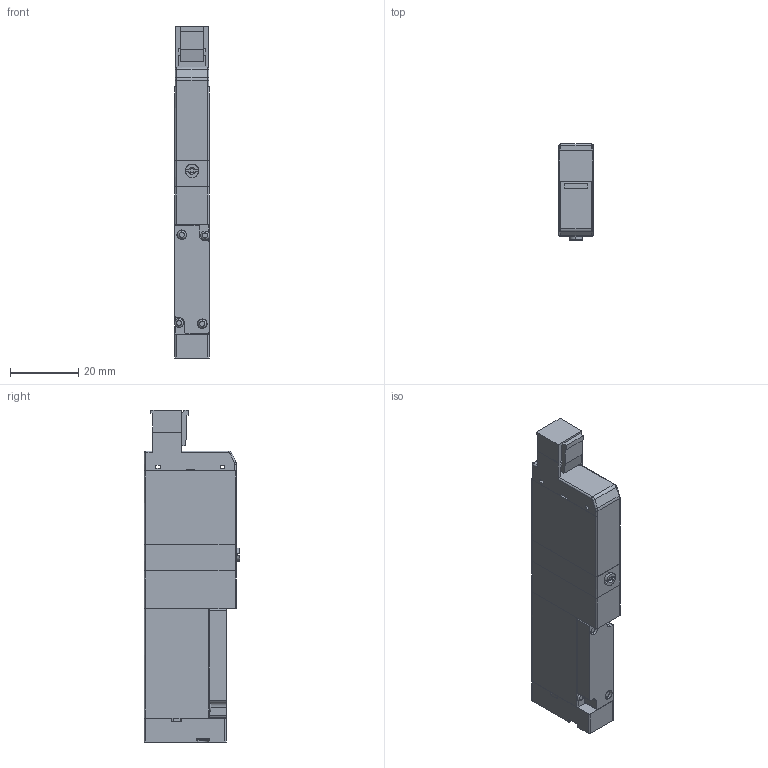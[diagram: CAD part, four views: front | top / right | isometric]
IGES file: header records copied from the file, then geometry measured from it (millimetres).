
Start section: ------------------------------------------------------------------------
Global section: file name: D:\ICADMX\tmp\trans3d_spg\CVICAD02.18204.F10T0-A1-PS_8379.igs; native system: spGate; preprocessor: ver12.6.6; author: Unknown; organization: Unknown; date: 200901.142327; units: millimetre
Bounding box: 10.2 x 28 x 97 mm (x, y, z)
Volume: 22361.5 mm3; surface area: 10378 mm2
Topology: 6 solids, 6 shells, 230 faces, 586 edges, 380 vertices
Faces by surface type: bspline 230
